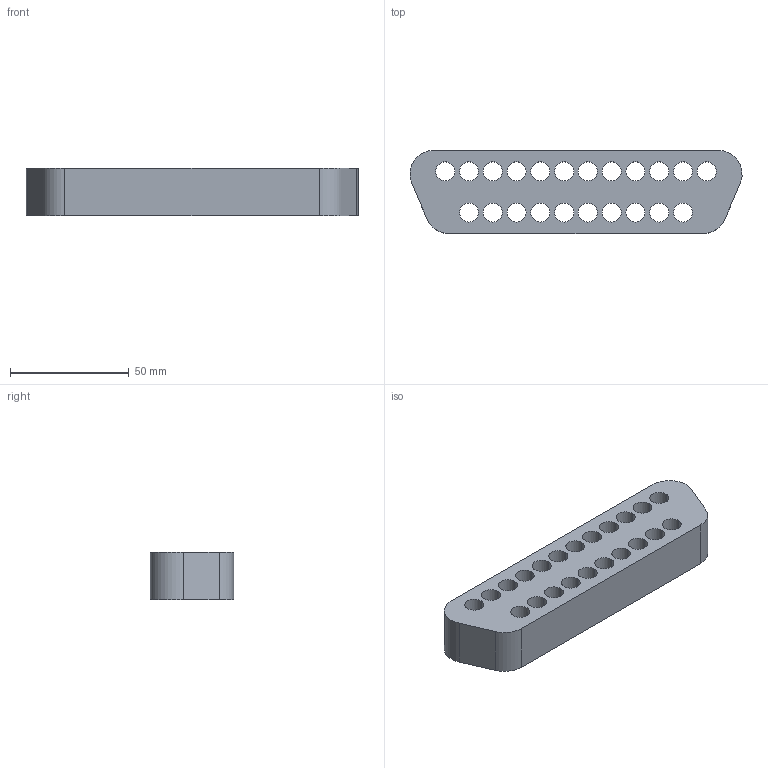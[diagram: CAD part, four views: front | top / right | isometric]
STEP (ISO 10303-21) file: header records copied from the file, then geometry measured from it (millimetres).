
FILE_DESCRIPTION (( 'STEP AP214' ), '1' );
FILE_NAME ('2026_5_2_ホルダー.STEP', '2026-05-18T07:01:21', ( '' ), ( '' ), 'SwSTEP 2.0', 'SolidWorks 2025', '' );
FILE_SCHEMA (( 'AUTOMOTIVE_DESIGN' ));
Length unit declared in the file: millimetre
Products named in the file (1): 2026_5_2_ホルダー
Bounding box: 139.61 x 35 x 20 mm (x, y, z)
Volume: 69962.6 mm3; surface area: 24493.7 mm2
Topology: 1 solids, 1 shells, 54 faces, 156 edges, 104 vertices
Faces by surface type: cylinder 48, plane 6
Entity records: 2431 total; most frequent: DIRECTION 362, CARTESIAN_POINT 315, ORIENTED_EDGE 312, EDGE_CURVE 156, AXIS2_PLACEMENT_3D 151, VERTEX_POINT 104, EDGE_LOOP 98, CIRCLE 96
